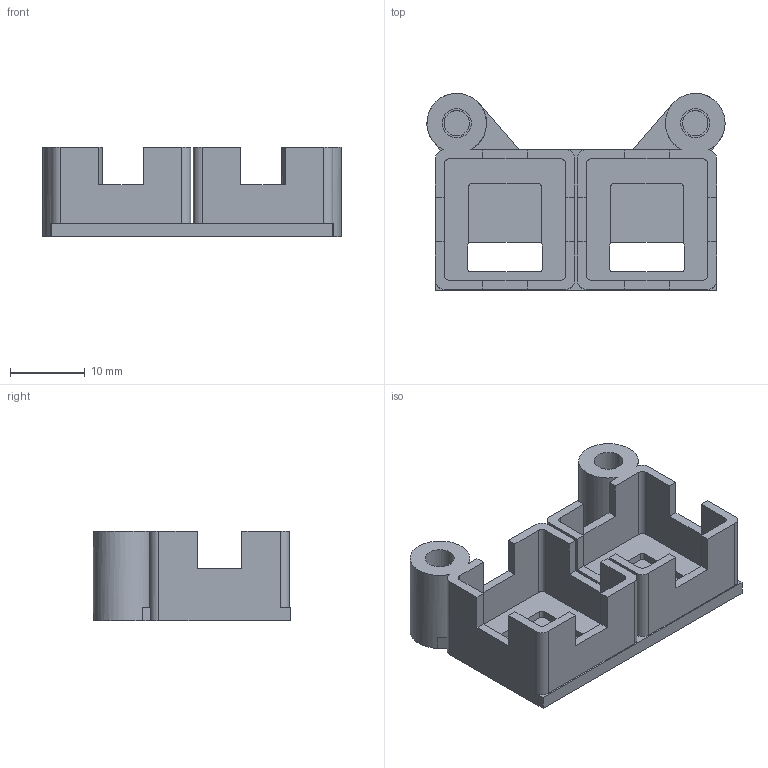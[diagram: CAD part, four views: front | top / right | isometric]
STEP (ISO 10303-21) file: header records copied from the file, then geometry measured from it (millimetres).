
FILE_DESCRIPTION(('Open CASCADE Model'),'2;1');
FILE_NAME('Open CASCADE Shape Model','2026-09-15T08:23:07',('Author'),( 'Open CASCADE'),'Open CASCADE STEP processor 7.9','Open CASCADE 7.9' ,'Unknown');
FILE_SCHEMA(('AUTOMOTIVE_DESIGN { 1 0 10303 214 1 1 1 1 }'));
Length unit declared in the file: millimetre
Products named in the file (1): Open CASCADE STEP translator 7.9 2
Bounding box: 40 x 26.45 x 12 mm (x, y, z)
Volume: 3492.1 mm3; surface area: 4800.4 mm2
Topology: 1 solids, 1 shells, 115 faces, 327 edges, 218 vertices
Faces by surface type: plane 80, cylinder 35
Full cylindrical faces by diameter (mm): 3.4 x2, 3.9 x2
Entity records: 7853 total; most frequent: CARTESIAN_POINT 1652, DIRECTION 1056, ORIENTED_EDGE 654, PCURVE 654, DEFINITIONAL_REPRESENTATION 654, LINE 605, VECTOR 605, EDGE_CURVE 327
